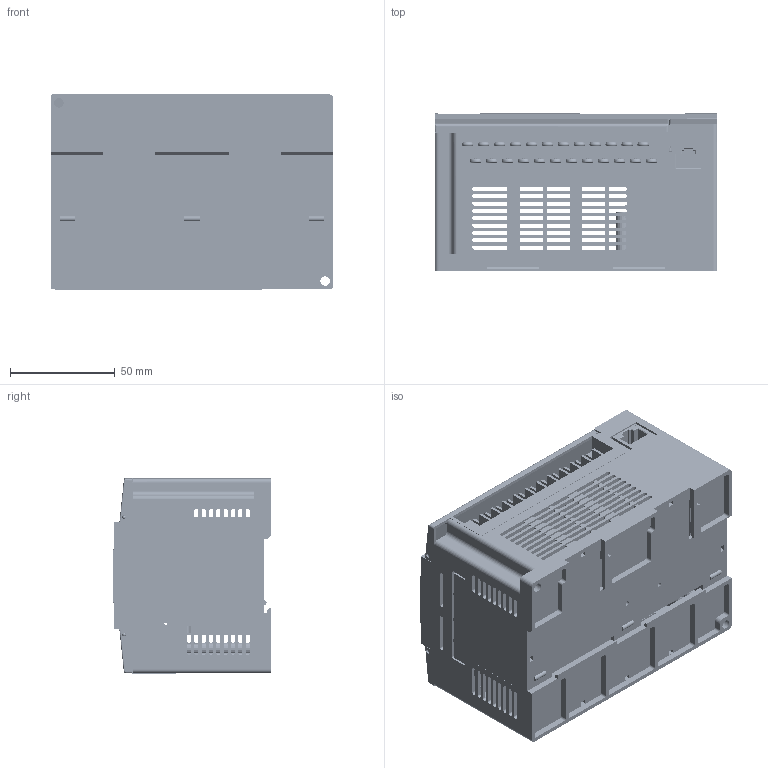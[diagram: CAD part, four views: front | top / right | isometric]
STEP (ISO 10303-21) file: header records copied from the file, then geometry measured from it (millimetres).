
FILE_DESCRIPTION (( 'STEP AP203' ), '1' );
FILE_NAME ('CM3-SB32MDTF.STEP', '2023-12-19T04:43:34', ( '' ), ( '' ), 'SwSTEP 2.0', 'SolidWorks 2023', '' );
FILE_SCHEMA (( 'CONFIG_CONTROL_DESIGN' ));
Length unit declared in the file: millimetre
Products named in the file (21): BP32_PCB_CPU; HP-762 T2A-24P; USB mini_A; Header socket_BCP22056_35x2; BP16,32_PCB_POWER_Z2; plate_SB32MDTF_C; BP SW_Center; BP32_Upper Case_Z2; BP32_Bottom Case_Z2; Assy_BP32_CPU; 단자대 cover_32_임시; Bolt_냄비_십자_M3_6_BNT21039; BP32_PCB_IO; Switch_BCP64041-KSD-02H; EXP cover_임시; Connector_15EDGRC_3.5_06P_품번미정_degson; CM3-SB32MDTF; RT7; HP-762 T2A_24p; 32MDTF_INPUT Plate; Assy_BP32_IO
Assembly tree (46 placements, depth 4):
  CM3-SB32MDTF
    BP16,32_PCB_POWER_Z2
    BP32_Upper Case_Z2
    BP32_Bottom Case_Z2
    Assy_BP32_CPU
      BP32_PCB_CPU
      BP SW_Center
    Assy_BP32_IO
      BP32_PCB_IO
      Connector_15EDGRC_3.5_06P_품번미정_degson
      RT7
      Switch_BCP64041-KSD-02H  x2
      Header socket_BCP22056_35x2
      USB mini_A
      HP-762 T2A-24P  x2
        HP-762 T2A_24p
        Bolt_냄비_십자_M3_6_BNT21039
    EXP cover_임시
    단자대 cover_32_임시  x2
    plate_SB32MDTF_C
    32MDTF_INPUT Plate
Bounding box: 135 x 75.16 x 93.45 mm (x, y, z)
Volume: 202591.2 mm3; surface area: 232272.2 mm2
Topology: 73 solids, 73 shells, 7279 faces, 19902 edges, 12940 vertices
Faces by surface type: plane 4640, cylinder 2155, torus 203, bspline 163, sphere 108, cone 10
Entity records: 143577 total; most frequent: CARTESIAN_POINT 27042, ORIENTED_EDGE 24286, DIRECTION 22087, EDGE_CURVE 12143, LINE 10513, VECTOR 10513, VERTEX_POINT 7902, AXIS2_PLACEMENT_3D 5787
